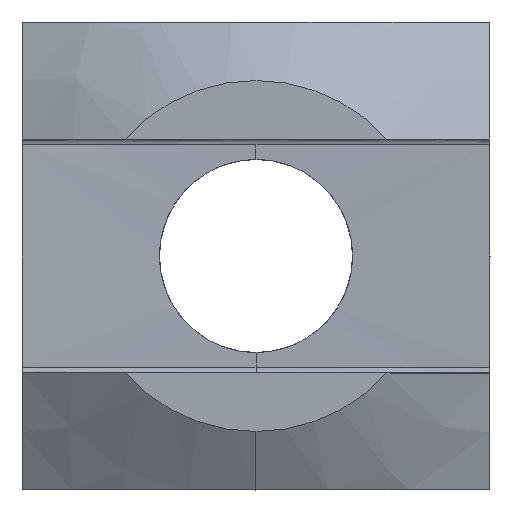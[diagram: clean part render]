
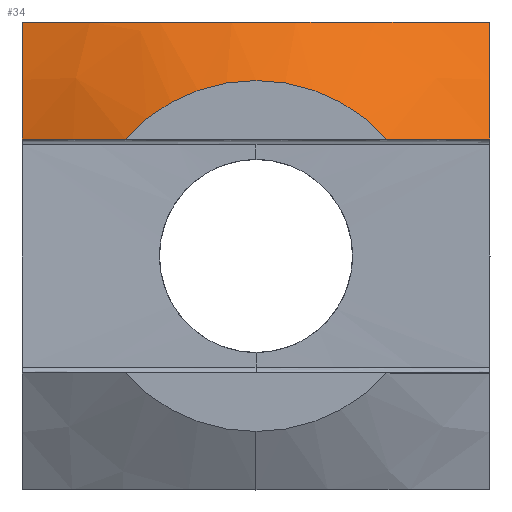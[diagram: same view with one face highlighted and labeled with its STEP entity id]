
A CAD part, left-side view. The second image highlights one B-rep face of the part: STEP entity #34.
In plain terms, the highlighted conical face has half-angle 60 degrees and reference radius 5.673 mm.
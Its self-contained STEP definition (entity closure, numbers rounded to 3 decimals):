
#5 = ORIENTED_EDGE ( 'NONE', *, *, #528, .T. ) ;
#34 = ADVANCED_FACE ( 'NONE', ( #599 ), #833, .T. ) ;
#45 = CARTESIAN_POINT ( 'NONE',  ( -4.225, 1.716, 4. ) ) ;
#47 = CARTESIAN_POINT ( 'NONE',  ( -5., 0., 0. ) ) ;
#77 = CARTESIAN_POINT ( 'NONE',  ( -4.15, 4., 2. ) ) ;
#91 = EDGE_CURVE ( 'NONE', #995, #463, #1104, .T. ) ;
#135 = VERTEX_POINT ( 'NONE', #437 ) ;
#138 = CARTESIAN_POINT ( 'NONE',  ( -3.466, -4., 4. ) ) ;
#139 = DIRECTION ( 'NONE',  ( 1., 0., 0. ) ) ;
#141 = CARTESIAN_POINT ( 'NONE',  ( -4.297, 1.379, 4. ) ) ;
#164 = ORIENTED_EDGE ( 'NONE', *, *, #171, .F. ) ;
#167 = EDGE_LOOP ( 'NONE', ( #5, #474, #1283, #749, #164, #1228 ) ) ;
#170 = CARTESIAN_POINT ( 'NONE',  ( -3.466, 4., 4. ) ) ;
#171 = EDGE_CURVE ( 'NONE', #877, #995, #401, .T. ) ;
#172 = CARTESIAN_POINT ( 'NONE',  ( -4.742, -2.836, 2. ) ) ;
#236 = CARTESIAN_POINT ( 'NONE',  ( -3.727, 3.36, 4. ) ) ;
#239 = CARTESIAN_POINT ( 'NONE',  ( -3.963, 2.712, 4. ) ) ;
#278 = CARTESIAN_POINT ( 'NONE',  ( -3.973, 4., 2.684 ) ) ;
#294 = CARTESIAN_POINT ( 'NONE',  ( -5., 2.236, 2. ) ) ;
#304 = CARTESIAN_POINT ( 'NONE',  ( -3.733, -4., 3.347 ) ) ;
#322 = CARTESIAN_POINT ( 'NONE',  ( -4.316, -1.365, 4. ) ) ;
#325 = CARTESIAN_POINT ( 'NONE',  ( -4.396, 0.694, 4. ) ) ;
#332 = CARTESIAN_POINT ( 'NONE',  ( -3.466, 4., 4. ) ) ;
#361 = AXIS2_PLACEMENT_3D ( 'NONE', #803, #507, #795 ) ;
#401 = B_SPLINE_CURVE_WITH_KNOTS ( 'NONE', 3,
 ( #332, #236, #239, #45, #141, #325, #1242, #939, #322, #815, #1019, #726, #1043, #138 ),
 .UNSPECIFIED., .F., .F.,
 ( 4, 2, 2, 2, 2, 2, 4 ),
 ( 0., 0.002, 0.003, 0.004, 0.006, 0.007, 0.008 ),
 .UNSPECIFIED. ) ;
#429 = CARTESIAN_POINT ( 'NONE',  ( -3.466, -4., 4. ) ) ;
#437 = CARTESIAN_POINT ( 'NONE',  ( -5., -2.236, 2. ) ) ;
#463 = VERTEX_POINT ( 'NONE', #1105 ) ;
#471 = VERTEX_POINT ( 'NONE', #907 ) ;
#474 = ORIENTED_EDGE ( 'NONE', *, *, #580, .T. ) ;
#475 = CARTESIAN_POINT ( 'NONE',  ( -5., -2.236, 2. ) ) ;
#499 = CARTESIAN_POINT ( 'NONE',  ( -3.973, -4., 2.684 ) ) ;
#507 = DIRECTION ( 'NONE',  ( 1., 0., 0. ) ) ;
#528 = EDGE_CURVE ( 'NONE', #834, #471, #709, .T. ) ;
#575 = CARTESIAN_POINT ( 'NONE',  ( -4.15, 4., 2. ) ) ;
#580 = EDGE_CURVE ( 'NONE', #471, #135, #1054, .T. ) ;
#599 = FACE_OUTER_BOUND ( 'NONE', #167, .T. ) ;
#615 = CARTESIAN_POINT ( 'NONE',  ( -3.466, -4., 4. ) ) ;
#628 = DIRECTION ( 'NONE',  ( 0., 0., -1. ) ) ;
#697 = CARTESIAN_POINT ( 'NONE',  ( -4.742, 2.836, 2. ) ) ;
#708 = CARTESIAN_POINT ( 'NONE',  ( -4.15, -4., 2. ) ) ;
#709 = B_SPLINE_CURVE_WITH_KNOTS ( 'NONE', 3,
 ( #791, #904, #697, #294 ),
 .UNSPECIFIED., .F., .F.,
 ( 4, 4 ),
 ( 0., 0.002 ),
 .UNSPECIFIED. ) ;
#726 = CARTESIAN_POINT ( 'NONE',  ( -3.721, -3.355, 4. ) ) ;
#749 = ORIENTED_EDGE ( 'NONE', *, *, #91, .F. ) ;
#758 = CARTESIAN_POINT ( 'NONE',  ( -4.15, -4., 2. ) ) ;
#791 = CARTESIAN_POINT ( 'NONE',  ( -4.15, 4., 2. ) ) ;
#795 = DIRECTION ( 'NONE',  ( 0., 0., -1. ) ) ;
#803 = CARTESIAN_POINT ( 'NONE',  ( -3.457, 0., 0. ) ) ;
#815 = CARTESIAN_POINT ( 'NONE',  ( -4.053, -2.369, 4. ) ) ;
#833 = CONICAL_SURFACE ( 'NONE', #361, 5.673, 1.047 ) ;
#834 = VERTEX_POINT ( 'NONE', #575 ) ;
#851 = EDGE_CURVE ( 'NONE', #135, #463, #1021, .T. ) ;
#877 = VERTEX_POINT ( 'NONE', #170 ) ;
#887 = EDGE_CURVE ( 'NONE', #834, #877, #1222, .T. ) ;
#904 = CARTESIAN_POINT ( 'NONE',  ( -4.45, 3.42, 2. ) ) ;
#907 = CARTESIAN_POINT ( 'NONE',  ( -5., 2.236, 2. ) ) ;
#939 = CARTESIAN_POINT ( 'NONE',  ( -4.423, -0.688, 4. ) ) ;
#968 = CARTESIAN_POINT ( 'NONE',  ( -3.466, 4., 4. ) ) ;
#995 = VERTEX_POINT ( 'NONE', #429 ) ;
#1019 = CARTESIAN_POINT ( 'NONE',  ( -3.949, -2.701, 4. ) ) ;
#1021 = B_SPLINE_CURVE_WITH_KNOTS ( 'NONE', 3,
 ( #475, #172, #1061, #758 ),
 .UNSPECIFIED., .F., .F.,
 ( 4, 4 ),
 ( 0., 0.002 ),
 .UNSPECIFIED. ) ;
#1043 = CARTESIAN_POINT ( 'NONE',  ( -3.597, -3.679, 4. ) ) ;
#1054 = CIRCLE ( 'NONE', #1144, 3. ) ;
#1061 = CARTESIAN_POINT ( 'NONE',  ( -4.45, -3.42, 2. ) ) ;
#1069 = CARTESIAN_POINT ( 'NONE',  ( -3.733, 4., 3.347 ) ) ;
#1104 = B_SPLINE_CURVE_WITH_KNOTS ( 'NONE', 3,
 ( #615, #304, #499, #708 ),
 .UNSPECIFIED., .F., .F.,
 ( 4, 4 ),
 ( 0., 0.002 ),
 .UNSPECIFIED. ) ;
#1105 = CARTESIAN_POINT ( 'NONE',  ( -4.15, -4., 2. ) ) ;
#1144 = AXIS2_PLACEMENT_3D ( 'NONE', #47, #139, #628 ) ;
#1222 = B_SPLINE_CURVE_WITH_KNOTS ( 'NONE', 3,
 ( #77, #278, #1069, #968 ),
 .UNSPECIFIED., .F., .F.,
 ( 4, 4 ),
 ( 0., 0.002 ),
 .UNSPECIFIED. ) ;
#1228 = ORIENTED_EDGE ( 'NONE', *, *, #887, .F. ) ;
#1242 = CARTESIAN_POINT ( 'NONE',  ( -4.423, 0.344, 4. ) ) ;
#1283 = ORIENTED_EDGE ( 'NONE', *, *, #851, .T. ) ;
